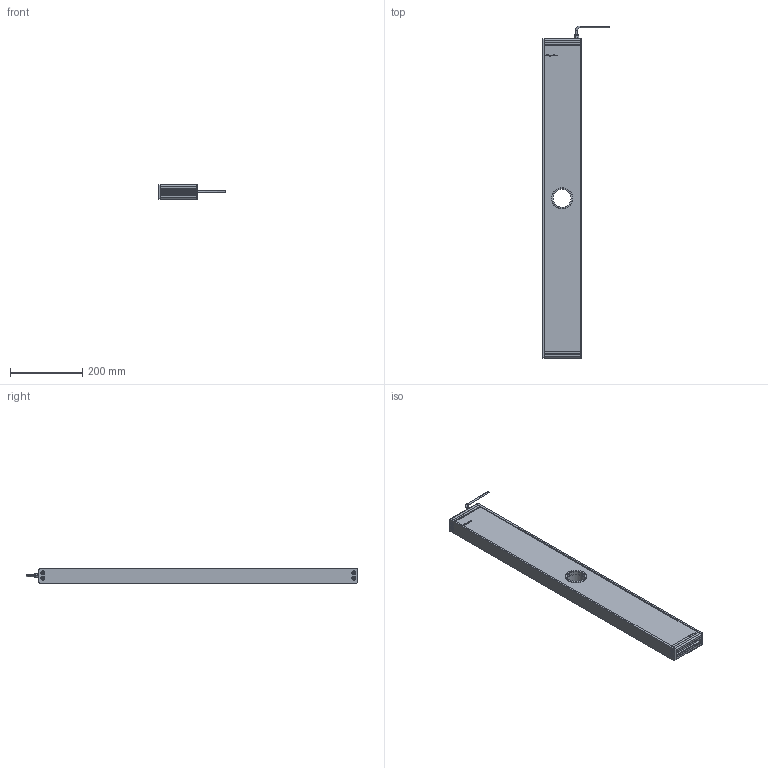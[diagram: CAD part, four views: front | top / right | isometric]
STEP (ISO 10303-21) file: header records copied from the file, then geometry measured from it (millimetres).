
FILE_DESCRIPTION (( 'STEP AP214' ), '1' );
FILE_NAME ('EFFI-FD-100T-850-M12 Ø50.STEP', '2021-07-02T12:03:52', ( '' ), ( '' ), 'SwSTEP 2.0', 'SolidWorks 2021', '' );
FILE_SCHEMA (( 'AUTOMOTIVE_DESIGN' ));
Length unit declared in the file: millimetre
Products named in the file (11): cordon_Avec cable; 001039; 001040; profile modif_lg 99.5 mm; EFFI-FD-100T-850-M12 Ø50; Assemblage Ø50; 003776; Pièce2^EFFI-FD-XXXT-YYY-M12 Ø50; 000590; bord fin modif_lg 436.5 mm
Assembly tree (20 placements, depth 3):
  EFFI-FD-100T-850-M12 Ø50
    profile modif_lg 99.5 mm
    bord fin modif_lg 436.5 mm  x2
    Pièce2^EFFI-FD-XXXT-YYY-M12 Ø50
    profile modif_lg 99.5 mm
    003776  x8
    cordon_Avec cable
    Assemblage Ø50
      001039
      001040
      000590  x3
Bounding box: 187.13 x 921.15 x 41 mm (x, y, z)
Volume: 3358241.9 mm3; surface area: 464231.4 mm2
Topology: 18 solids, 24 shells, 997 faces, 2503 edges, 1569 vertices
Faces by surface type: plane 391, cylinder 231, bspline 180, cone 152, torus 35, sphere 8
Entity records: 25439 total; most frequent: CARTESIAN_POINT 8620, ORIENTED_EDGE 3290, DIRECTION 3029, EDGE_CURVE 1649, VERTEX_POINT 1066, AXIS2_PLACEMENT_3D 1021, LINE 987, VECTOR 987
